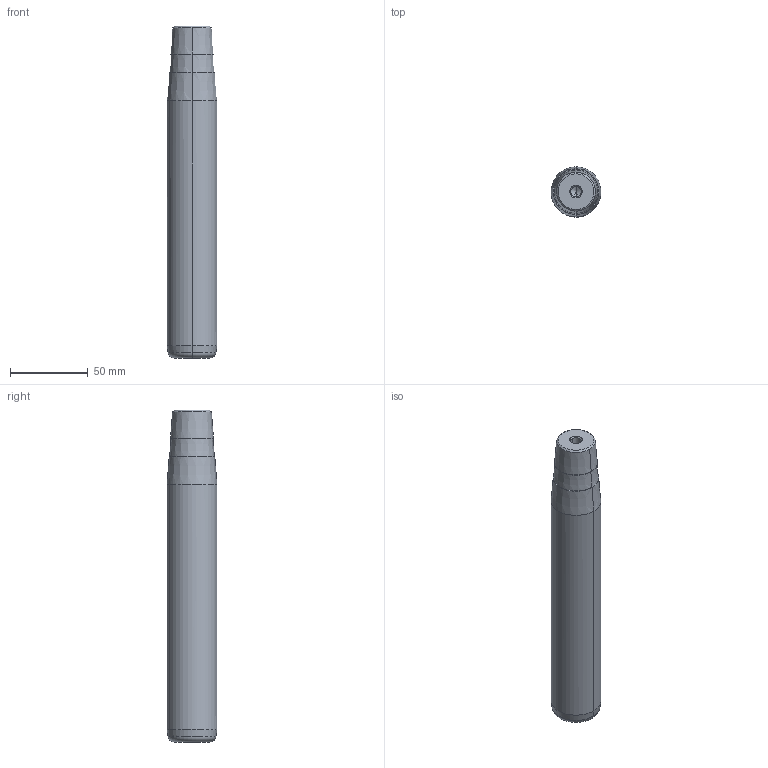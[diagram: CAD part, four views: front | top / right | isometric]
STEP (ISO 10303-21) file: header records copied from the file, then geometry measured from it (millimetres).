
FILE_DESCRIPTION(('CATIA V5 STEP Exchange'),'2;1');
FILE_NAME('C:\Users\Utente\Desktop\IO LAVORO\3D X SITO CF\X SITO\722\722-32x180x213.stp','2021-01-08T16:10:42+00:00',('none'),('none'),'CATIA Version 5 Release 20 GA (IN-10)','CATIA V5 STEP AP203','none');
FILE_SCHEMA(('CONFIG_CONTROL_DESIGN'));
Length unit declared in the file: millimetre
Products named in the file (1): 722-32x180x213
Bounding box: 32 x 32 x 213 mm (x, y, z)
Volume: 160393.7 mm3; surface area: 22987.8 mm2
Topology: 1 solids, 1 shells, 32 faces, 98 edges, 66 vertices
Faces by surface type: cone 22, cylinder 6, plane 2, torus 2
Entity records: 1166 total; most frequent: CARTESIAN_POINT 279, ORIENTED_EDGE 188, DIRECTION 148, EDGE_CURVE 94, AXIS2_PLACEMENT_3D 89, VERTEX_POINT 66, CIRCLE 56, EDGE_LOOP 34
